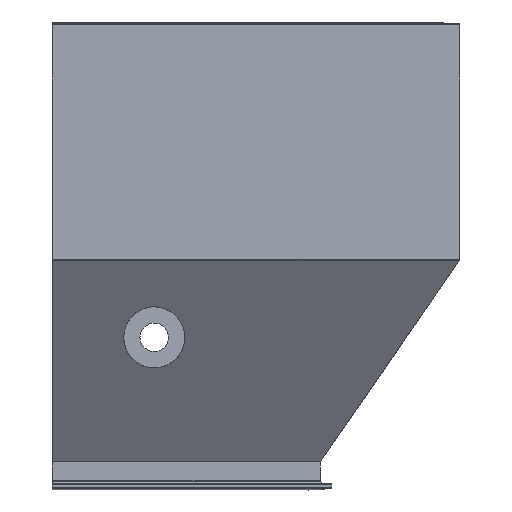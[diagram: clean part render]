
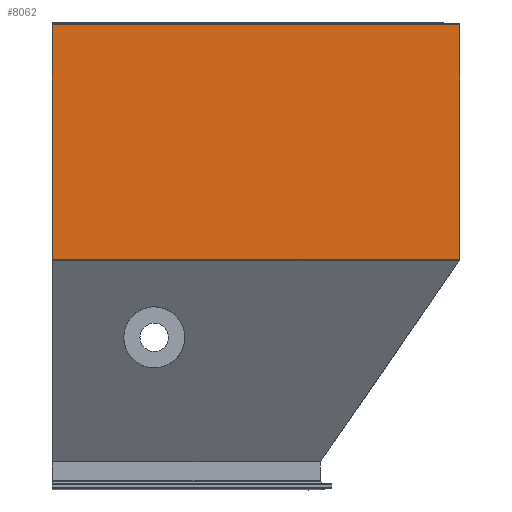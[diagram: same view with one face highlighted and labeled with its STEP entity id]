
A CAD part, left-side view. The second image highlights one B-rep face of the part: STEP entity #8062.
In plain terms, the highlighted planar face has unit normal (-1, 0, 0).
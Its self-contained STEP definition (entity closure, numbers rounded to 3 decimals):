
#978=FACE_OUTER_BOUND('',#1398,.T.);
#1398=EDGE_LOOP('',(#6141,#6142,#6143,#6144));
#1785=LINE('',#11880,#2539);
#1831=LINE('',#12106,#2585);
#2010=LINE('',#12664,#2764);
#2011=LINE('',#12666,#2765);
#2539=VECTOR('',#9422,10.);
#2585=VECTOR('',#9602,10.);
#2764=VECTOR('',#10151,10.);
#2765=VECTOR('',#10154,10.);
#3463=VERTEX_POINT('',#11711);
#3547=VERTEX_POINT('',#11878);
#3659=VERTEX_POINT('',#12103);
#3660=VERTEX_POINT('',#12105);
#4335=EDGE_CURVE('',#3547,#3463,#1785,.T.);
#4447=EDGE_CURVE('',#3659,#3660,#1831,.T.);
#4732=EDGE_CURVE('',#3463,#3659,#2010,.T.);
#4733=EDGE_CURVE('',#3660,#3547,#2011,.T.);
#6141=ORIENTED_EDGE('',*,*,#4335,.F.);
#6142=ORIENTED_EDGE('',*,*,#4733,.F.);
#6143=ORIENTED_EDGE('',*,*,#4447,.F.);
#6144=ORIENTED_EDGE('',*,*,#4732,.F.);
#7833=PLANE('',#8756);
#8062=ADVANCED_FACE('',(#978),#7833,.T.);
#8756=AXIS2_PLACEMENT_3D('',#12665,#10152,#10153);
#9422=DIRECTION('',(0.,1.,0.));
#9602=DIRECTION('',(0.,-1.,0.));
#10151=DIRECTION('',(0.,0.,1.));
#10152=DIRECTION('center_axis',(-1.,0.,0.));
#10153=DIRECTION('ref_axis',(0.,0.,1.));
#10154=DIRECTION('',(0.,0.,-1.));
#11711=CARTESIAN_POINT('',(-74.826,228.583,650.));
#11878=CARTESIAN_POINT('',(-74.826,113.156,650.));
#11880=CARTESIAN_POINT('',(-74.826,56.5,650.));
#12103=CARTESIAN_POINT('',(-74.826,228.583,850.));
#12105=CARTESIAN_POINT('',(-74.826,113.156,850.));
#12106=CARTESIAN_POINT('',(-74.826,56.5,850.));
#12664=CARTESIAN_POINT('',(-74.826,228.583,0.));
#12665=CARTESIAN_POINT('Origin',(-74.826,113.,0.));
#12666=CARTESIAN_POINT('',(-74.826,113.156,0.));
